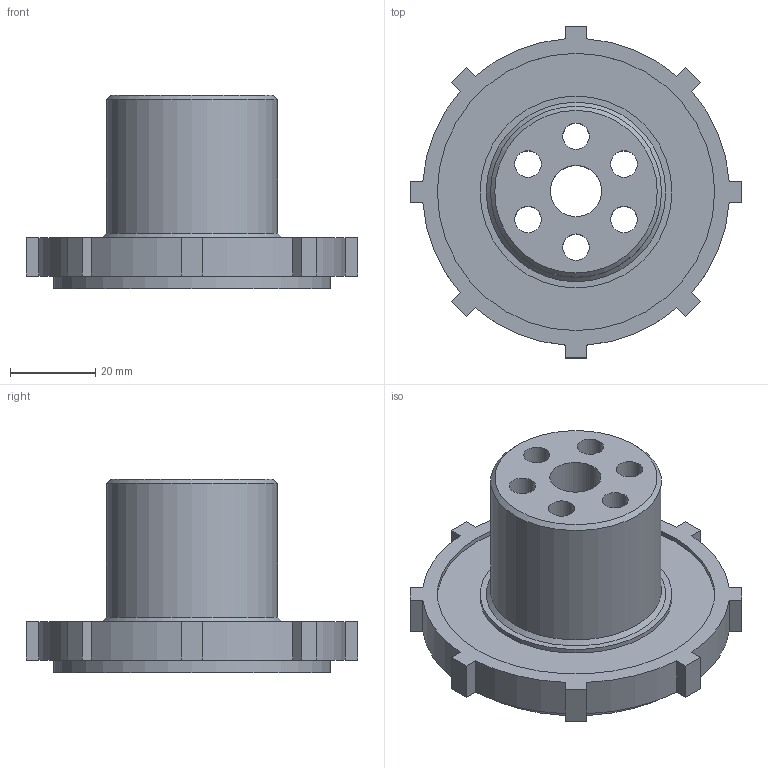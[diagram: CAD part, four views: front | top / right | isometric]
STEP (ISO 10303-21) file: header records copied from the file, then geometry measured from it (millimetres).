
FILE_DESCRIPTION(/* description */ (''),/* implementation_level */ '2;1');
FILE_NAME(/* name */ 'elbow_spindle_v2(hate ts).step',/* time_stamp */ '2026-06-03T23:48:04+01:00',/* author */ (''),/* organization */ (''),/* preprocessor_version */ 'ST-DEVELOPER v20.1',/* originating_system */ 'Autodesk Translation Framework v15.8.0.0',/* authorisation */ '');
FILE_SCHEMA (('AUTOMOTIVE_DESIGN { 1 0 10303 214 3 1 1 }'));
Length unit declared in the file: millimetre
Products named in the file (1): elbow_spindle_v2(hate ts)
Bounding box: 77.83 x 77.83 x 45.4 mm (x, y, z)
Volume: 71676.2 mm3; surface area: 22241.7 mm2
Topology: 1 solids, 1 shells, 53 faces, 136 edges, 90 vertices
Faces by surface type: plane 31, cylinder 20, cone 2
Full cylindrical faces by diameter (mm): 6.2 x6, 12 x1, 40.1 x2, 45 x1, 65 x2
Entity records: 1677 total; most frequent: DIRECTION 286, CARTESIAN_POINT 280, ORIENTED_EDGE 272, EDGE_CURVE 136, AXIS2_PLACEMENT_3D 96, LINE 94, VECTOR 94, VERTEX_POINT 90
